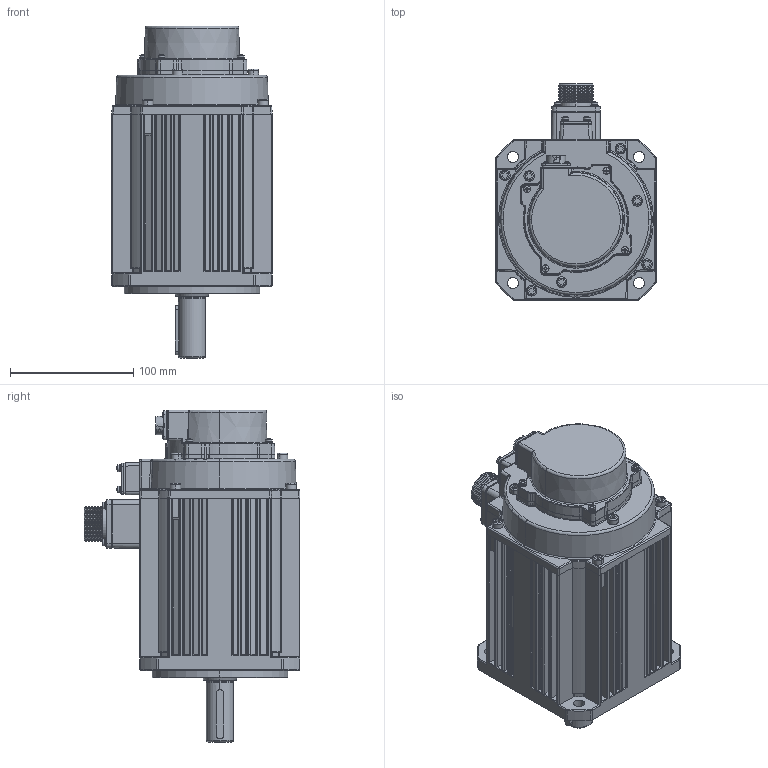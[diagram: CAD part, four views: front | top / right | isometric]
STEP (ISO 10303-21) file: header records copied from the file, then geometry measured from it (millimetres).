
FILE_DESCRIPTION (( 'STEP AP203' ), '1' );
FILE_NAME ('G3-130-14.64NM刹车电机三维图.STEP', '2022-12-05T11:43:52', ( '微软用户' ), ( '微软中国' ), 'SwSTEP 2.0', 'SolidWorks 2016', '' );
FILE_SCHEMA (( 'CONFIG_CONTROL_DESIGN' ));
Length unit declared in the file: millimetre
Products named in the file (1): G3-130-14.64NM刹车电机三维图
Bounding box: 130 x 175.3 x 269.5 mm (x, y, z)
Volume: 796102.5 mm3; surface area: 360863.4 mm2
Topology: 35 solids, 35 shells, 3416 faces, 8522 edges, 5287 vertices
Faces by surface type: plane 1101, cylinder 995, cone 576, bspline 333, torus 307, sphere 104
Entity records: 114580 total; most frequent: CARTESIAN_POINT 34856, ORIENTED_EDGE 16776, DIRECTION 16630, EDGE_CURVE 8388, AXIS2_PLACEMENT_3D 6358, VERTEX_POINT 5255, VECTOR 3914, LINE 3914
